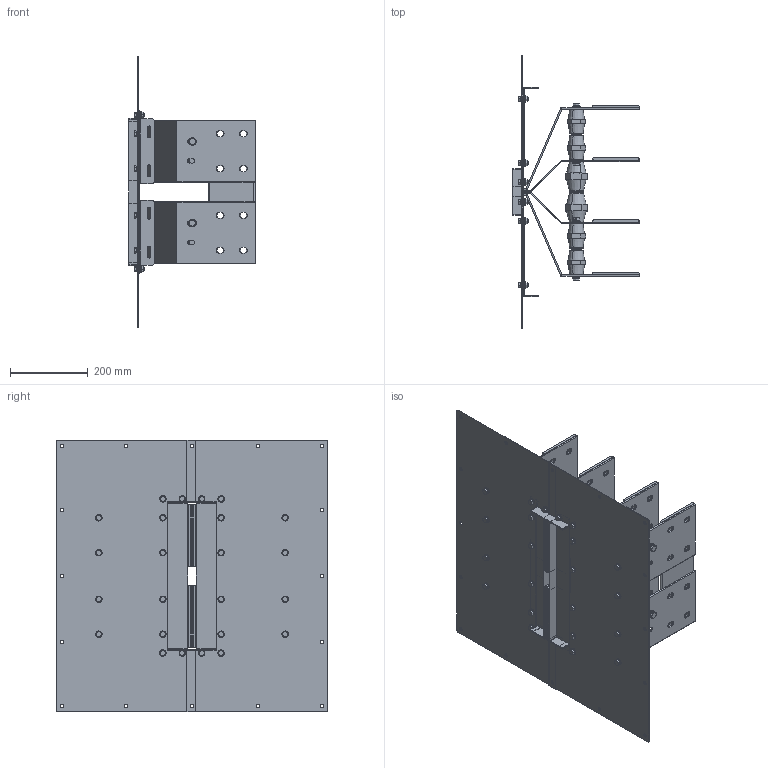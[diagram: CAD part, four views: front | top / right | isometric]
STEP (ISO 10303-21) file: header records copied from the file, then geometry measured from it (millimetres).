
FILE_DESCRIPTION(('CATIA V5 STEP','CAx-IF Rec.Pracs.--- Model Styling and Organization---1.5--- 2016-08-15','CAx-IF Rec.Pracs.---Supplemental Geometry---1.0---2011-11-01','CAx-IF Rec.Pracs.--- Composite Materials ---1.1---2010-07-15'),'2;1');
FILE_NAME('K:\COSCN 2011\32372311_RiduzioneSezioniBarre\03_Studio\__Modelli semplificati\XCP_UB semplificati per studi\XCP-S_UB_4C_Pe_CRT_Assieme\Al\XCP-S_UB_4C_Pe_D_Assieme - 2500A Al\XCP-S_UB_4C_Pe_D_Assieme - 2500A Al_CRT.stp','2025-05-12T12:36:15+00:00',('Utente Bticino'),('Bticino S.p.A.'),'CATIA Version 5-6 Release 2020 SP5','CATIA V5 STEP AP214 v2','none');
FILE_SCHEMA(('AUTOMOTIVE_DESIGN { 1 0 10303 214 1 1 1 1 }'));
Length unit declared in the file: millimetre
Products named in the file (30): XCP-S_UB_4C_Pe_D_Assieme - 2500A Al_CRT; XCP-S_UB_4C_Pe_D_PaccoBarre_2500A Al_CRT; XCP-S_UB_4C_Pe_D_Lamiere_2500A Al_CRT; XCP-S_UB_4C_Pe_D_PaccoBarre_2500A Al_CRT_1; XCP-S_UB_4C_Pe_D - 2500A Al_Bandelle parallelo_CRT; 130006; 130184; 00750033 - RONDELLA PIANA 4.8 D.12 UNI 6592 ZB; Ass_M10x25.1; 00740025 M10x25 UNI5739; Rondella spac M10 UNI 1751; 00750005; 130006_1; 00750033 - RONDELLA PIANA 4.8 D.12 UNI 6592 ZB_1; 130184_1; 130006_2; 00750033 - RONDELLA PIANA 4.8 D.12 UNI 6592 ZB_2; 130006_3; 130006_4; 130184_2; 00750033 - RONDELLA PIANA 4.8 D.12 UNI 6592 ZB_3; 130006_5; 00750033 - RONDELLA PIANA 4.8 D.12 UNI 6592 ZB_4; 130184_3; 130006_6; 00750033 - RONDELLA PIANA 4.8 D.12 UNI 6592 ZB_5; 130006_7; Ass Vite+dado M8; Steel hex flanged SCREW M12x16; Steel hex flanged NUT M8
Assembly tree (63 placements, depth 3):
  XCP-S_UB_4C_Pe_D_Assieme - 2500A Al_CRT
    XCP-S_UB_4C_Pe_D_PaccoBarre_2500A Al_CRT
    XCP-S_UB_4C_Pe_D_Lamiere_2500A Al_CRT
    XCP-S_UB_4C_Pe_D_PaccoBarre_2500A Al_CRT_1
    XCP-S_UB_4C_Pe_D - 2500A Al_Bandelle parallelo_CRT
    130006
    130184
    00750033 - RONDELLA PIANA 4.8 D.12 UNI 6592 ZB
    Ass_M10x25.1  x12
      00740025 M10x25 UNI5739
      Rondella spac M10 UNI 1751
      00750005
    130006_1
    00750033 - RONDELLA PIANA 4.8 D.12 UNI 6592 ZB_1
    130184_1
    130006_2
    00750033 - RONDELLA PIANA 4.8 D.12 UNI 6592 ZB_2
    130006_3
    130006_4
    130184_2
    00750033 - RONDELLA PIANA 4.8 D.12 UNI 6592 ZB_3
    130006_5
    00750033 - RONDELLA PIANA 4.8 D.12 UNI 6592 ZB_4
    130184_3
    130006_6
    00750033 - RONDELLA PIANA 4.8 D.12 UNI 6592 ZB_5
    130006_7
    Ass Vite+dado M8  x24
      Steel hex flanged SCREW M12x16
      Steel hex flanged NUT M8
Bounding box: 325 x 700 x 700 mm (x, y, z)
Volume: 5399769.6 mm3; surface area: 3200817.9 mm2
Topology: 128 solids, 128 shells, 2880 faces, 6912 edges, 4348 vertices
Faces by surface type: plane 1288, cylinder 856, cone 336, bspline 288, torus 112
Entity records: 41578 total; most frequent: CARTESIAN_POINT 8444, ORIENTED_EDGE 7136, DIRECTION 5470, EDGE_CURVE 3568, AXIS2_PLACEMENT_3D 2356, VERTEX_POINT 2280, VECTOR 2108, LINE 2108
